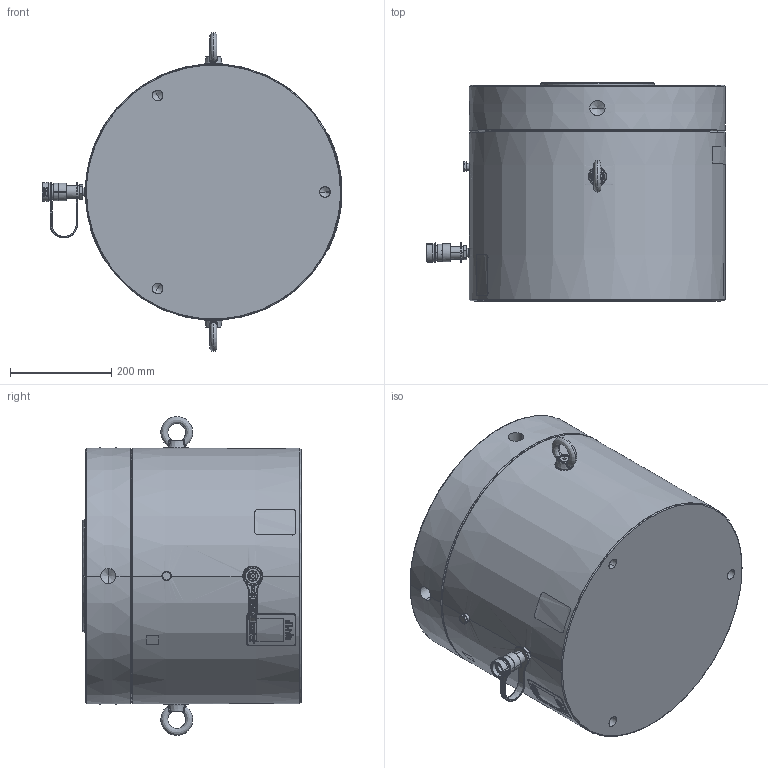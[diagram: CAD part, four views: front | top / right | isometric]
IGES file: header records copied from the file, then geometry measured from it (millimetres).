
Start section:  PTC IGES file: hcl8002.igs
Global section: file name: hcl8002.igs; native system: Creo Parametric by PTC Inc.; preprocessor: 2015290; author: Akhilesh.Subrahmanya; organization: Unknown; date: 20170621.163658; units: millimetre
Bounding box: 591.17 x 430 x 629 mm (x, y, z)
Surface area: 1219148.5 mm2 (no closed solid volume)
Topology: 0 solids, 0 shells, 548 faces, 5478 edges, 5460 vertices
Faces by surface type: revolution 358, bspline 187, extrusion 3
